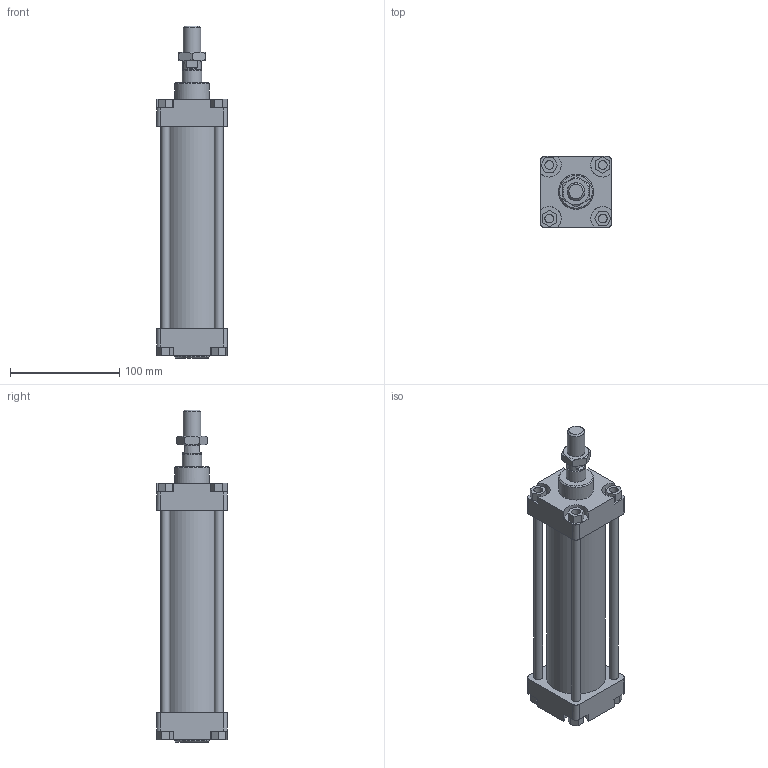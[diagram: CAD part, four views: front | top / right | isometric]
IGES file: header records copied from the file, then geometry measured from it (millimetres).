
Global section: file name: 130#_050_0125_01A; native system: Autodesk Inventor 2014; preprocessor: unknown; author: A. Manieri; date: 20161123.145454; units: millimetre
Bounding box: 65 x 65 x 304 mm (x, y, z)
Volume: 454252.9 mm3; surface area: 150064.1 mm2
Topology: 9 solids, 9 shells, 163 faces, 401 edges, 268 vertices
Faces by surface type: bspline 163
